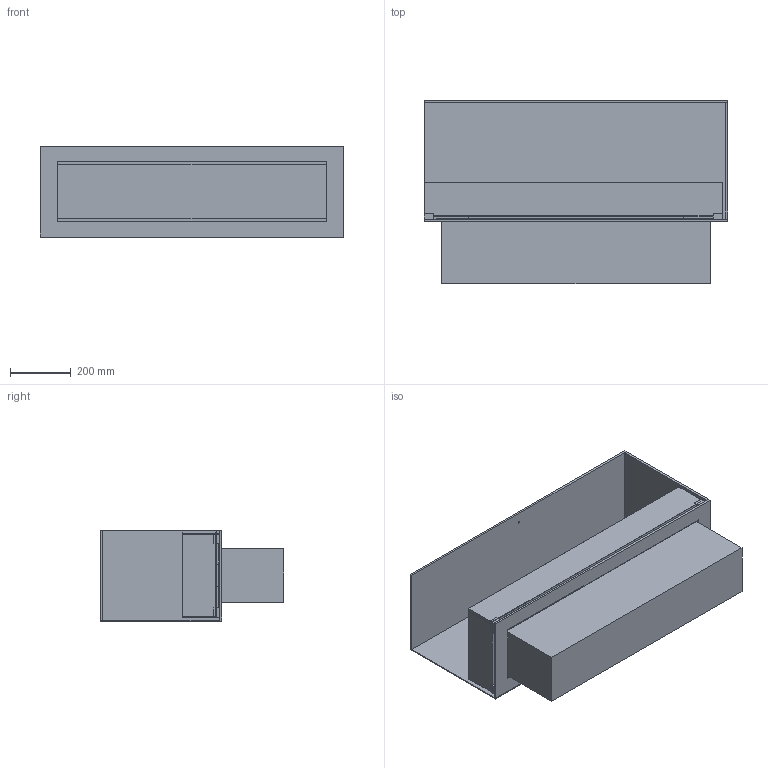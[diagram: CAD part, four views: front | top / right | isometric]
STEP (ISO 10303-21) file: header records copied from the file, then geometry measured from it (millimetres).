
FILE_DESCRIPTION (( 'STEP AP203' ), '1' );
FILE_NAME ('Montreal open to front and 1 side 1000 Hybrid Mist.STEP', '2024-03-22T10:16:24', ( '' ), ( '' ), 'SwSTEP 2.0', 'SolidWorks 2023', '' );
FILE_SCHEMA (( 'CONFIG_CONTROL_DESIGN' ));
Length unit declared in the file: millimetre
Products named in the file (10): Montreal open to front and 1 side 1000 Hybrid Mist; Part4^P&G -1120SI Montreal Single AUTOShowroom -look book; 3mm alu Bag - P&G -1120SIShowroom -look book; Glas holder flad med sider 10mm; 8mm alu Side - P&G -1120SIShowroom -look book_Glass; Part2^P&G -1120SI Montreal Single AUTOShowroom -look book; Part3^P&G -1120SI Montreal Single AUTOShowroom -look book; 8mm alu Top - P&G -1120SIShowroom -look book; 8mm alu Bund - P&G -1120SIShowroom -look book; Denver F6_uden glass
Assembly tree (12 placements, depth 2):
  Montreal open to front and 1 side 1000 Hybrid Mist
    8mm alu Top - P&G -1120SIShowroom -look book
    8mm alu Bund - P&G -1120SIShowroom -look book
    8mm alu Side - P&G -1120SIShowroom -look book_Glass
    3mm alu Bag - P&G -1120SIShowroom -look book
    Glas holder flad med sider 10mm  x5
    Part2^P&G -1120SI Montreal Single AUTOShowroom -look book
    Part4^P&G -1120SI Montreal Single AUTOShowroom -look book
    Denver F6_uden glass
  Part3^P&G -1120SI Montreal Single AUTOShowroom -look book
Bounding box: 1000 x 605 x 303 mm (x, y, z)
Volume: 41332614.1 mm3; surface area: 3527561.1 mm2
Topology: 16 solids, 16 shells, 209 faces, 469 edges, 298 vertices
Faces by surface type: plane 183, cylinder 26
Entity records: 5400 total; most frequent: CARTESIAN_POINT 739, DIRECTION 729, ORIENTED_EDGE 698, EDGE_CURVE 349, VECTOR 313, LINE 313, VERTEX_POINT 218, AXIS2_PLACEMENT_3D 208
